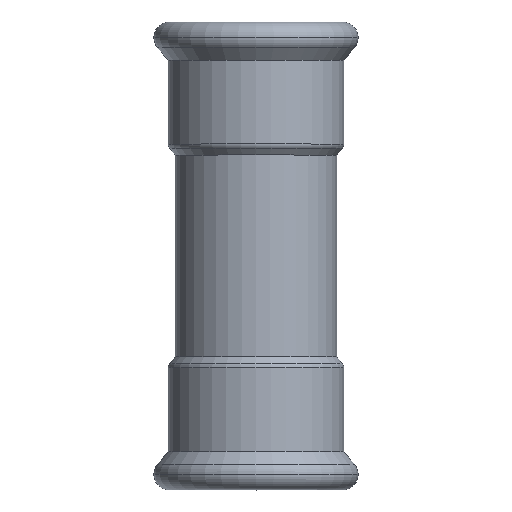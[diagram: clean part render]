
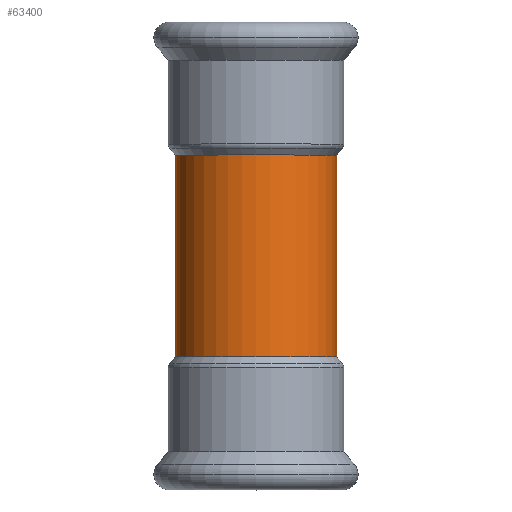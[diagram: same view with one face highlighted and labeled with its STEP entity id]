
A CAD part, top view. The second image highlights one B-rep face of the part: STEP entity #63400.
In plain terms, the highlighted cylindrical face has radius 17.594 mm (diameter 35.189 mm), a partial arc.
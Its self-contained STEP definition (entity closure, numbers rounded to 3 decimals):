
#7960=CARTESIAN_POINT('',(-96.193,67.909,
22.));
#7970=DIRECTION('',(0.,0.,1.));
#7980=DIRECTION('',(-1.,0.,0.));
#7990=AXIS2_PLACEMENT_3D('',#7960,#7970,#7980);
#8000=CYLINDRICAL_SURFACE('',#7990,17.594);
#30680=CARTESIAN_POINT('',(-113.787,67.909,
22.));
#30690=DIRECTION('',(0.,0.,1.));
#30700=VECTOR('',#30690,1.);
#30710=LINE('',#30680,#30700);
#30720=CARTESIAN_POINT('',(-113.787,67.909,
-22.));
#30730=VERTEX_POINT('',#30720);
#30740=CARTESIAN_POINT('',(-113.787,67.909,
22.));
#30750=VERTEX_POINT('',#30740);
#30760=EDGE_CURVE('',#30730,#30750,#30710,.T.);
#30780=CARTESIAN_POINT('',(-96.193,67.909,
22.));
#30790=DIRECTION('',(0.,0.,1.));
#30800=DIRECTION('',(-1.,0.,0.));
#30810=AXIS2_PLACEMENT_3D('',#30780,#30790,#30800);
#30820=CIRCLE('',#30810,17.594);
#30830=CARTESIAN_POINT('',(-78.598,67.909,
22.));
#30840=VERTEX_POINT('',#30830);
#30870=CARTESIAN_POINT('',(-78.598,67.909,
22.));
#30880=DIRECTION('',(0.,0.,1.));
#30890=VECTOR('',#30880,1.);
#30900=LINE('',#30870,#30890);
#30910=CARTESIAN_POINT('',(-78.598,67.909,
-22.));
#30920=VERTEX_POINT('',#30910);
#30930=EDGE_CURVE('',#30920,#30840,#30900,.T.);
#30950=CARTESIAN_POINT('',(-96.193,67.909,
-22.));
#30960=DIRECTION('',(0.,0.,-1.));
#30970=DIRECTION('',(1.,0.,0.));
#30980=AXIS2_PLACEMENT_3D('',#30950,#30960,#30970);
#30990=CIRCLE('',#30980,17.594);
#37150=EDGE_CURVE('',#30840,#30750,#30820,.T.);
#63330=ORIENTED_EDGE('',*,*,#30760,.T.);
#63340=EDGE_CURVE('',#30730,#30920,#30990,.T.);
#63350=ORIENTED_EDGE('',*,*,#63340,.F.);
#63360=ORIENTED_EDGE('',*,*,#30930,.F.);
#63370=ORIENTED_EDGE('',*,*,#37150,.F.);
#63380=EDGE_LOOP('',(#63370,#63360,#63350,#63330));
#63390=FACE_OUTER_BOUND('',#63380,.T.);
#63400=ADVANCED_FACE('',(#63390),#8000,.T.);
